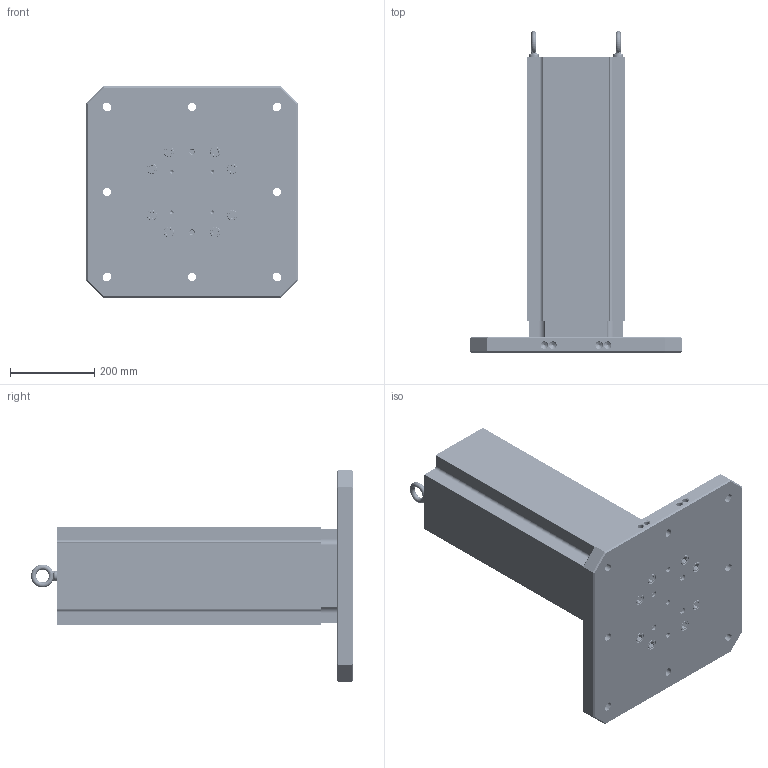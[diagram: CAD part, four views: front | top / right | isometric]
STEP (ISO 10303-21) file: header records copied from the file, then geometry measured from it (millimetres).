
FILE_DESCRIPTION (( 'STEP AP214' ), '1' );
FILE_NAME ('MTA-5004U-700.STEP', '2025-06-24T07:22:03', ( '' ), ( '' ), 'SwSTEP 2.0', 'SolidWorks 2024', '' );
FILE_SCHEMA (( 'AUTOMOTIVE_DESIGN' ));
Length unit declared in the file: millimetre
Products named in the file (8): HW.76172; RL96-14TC; M12X24MM.EB (McM 3040T15)_3040T15; HW.76452_dev_91290A835; RL96-5004BUA; MTA-5004U-700; MT-4662A_MT-4600A; 156x2.OR  -  O-RING, 156mm ID X 2mm THK, BUNA-N, 70A
Assembly tree (18 placements, depth 2):
  MTA-5004U-700
    RL96-5004BUA
    MT-4662A_MT-4600A
    156x2.OR  -  O-RING, 156mm ID X 2mm THK, BUNA-N, 70A
    RL96-14TC
    HW.76172  x4
    M12X24MM.EB (McM 3040T15)_3040T15  x2
    HW.76452_dev_91290A835  x8
Bounding box: 500 x 762.9 x 500 mm (x, y, z)
Volume: 30949147.9 mm3; surface area: 1748670.8 mm2
Topology: 18 solids, 18 shells, 2067 faces, 5534 edges, 3527 vertices
Faces by surface type: cylinder 1388, plane 317, cone 290, bspline 42, torus 30
Entity records: 33506 total; most frequent: CARTESIAN_POINT 13928, ORIENTED_EDGE 4182, DIRECTION 3969, EDGE_CURVE 2091, AXIS2_PLACEMENT_3D 1491, VERTEX_POINT 1332, LINE 987, VECTOR 987
